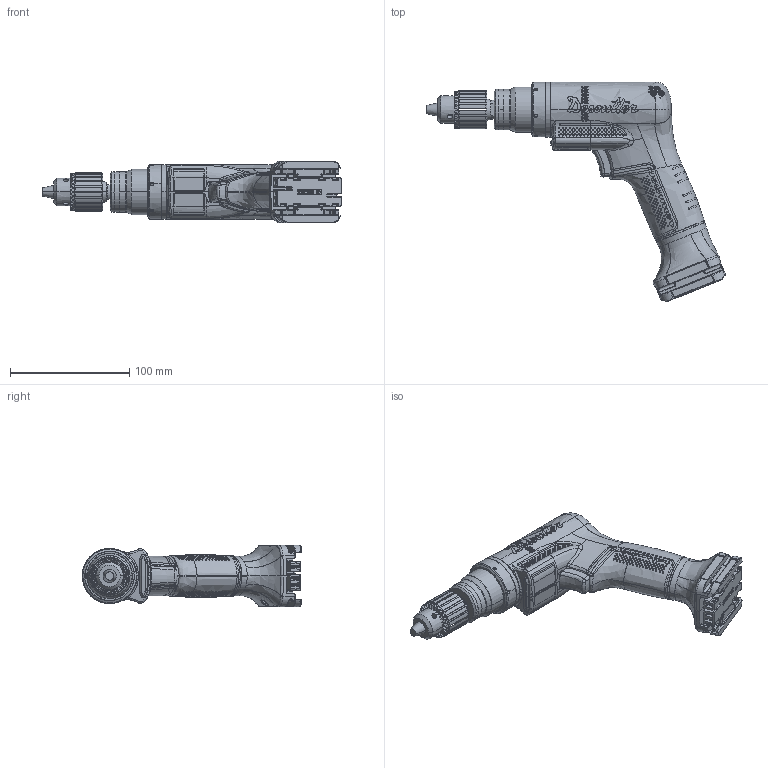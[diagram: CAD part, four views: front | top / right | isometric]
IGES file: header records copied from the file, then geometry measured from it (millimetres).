
Start section:  PTC IGES file: 6151762530_dim.igs
Global section: file name: 6151762530_dim.igs; native system: Creo Parametric by PTC Inc.; preprocessor: 2019080; author: gre_svc_itools; organization: Unknown; date: 20210217.075320; units: millimetre
Bounding box: 251.12 x 184.36 x 52 mm (x, y, z)
Surface area: 62729.4 mm2 (no closed solid volume)
Topology: 0 solids, 0 shells, 1908 faces, 11249 edges, 11237 vertices
Faces by surface type: bspline 1301, revolution 549, extrusion 58
